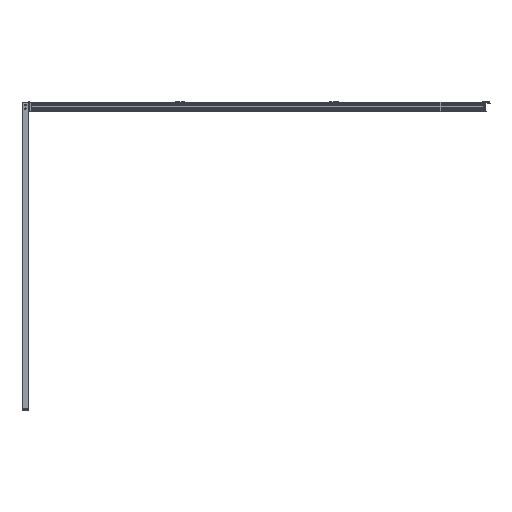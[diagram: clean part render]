
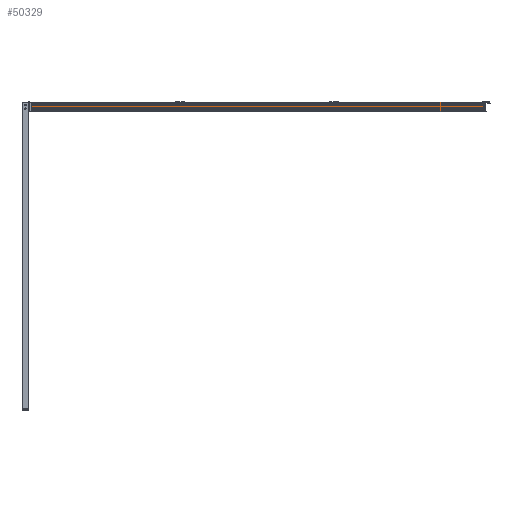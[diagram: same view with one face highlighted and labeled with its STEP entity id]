
A CAD part, left-side view. The second image highlights one B-rep face of the part: STEP entity #50329.
In plain terms, the highlighted planar face has unit normal (-1, 0, 0).
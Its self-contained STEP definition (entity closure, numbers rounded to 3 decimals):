
#7351 = CARTESIAN_POINT ( 'NONE',  ( 4410., -3708.5, 371.646 ) ) ;
#10589 = LINE ( 'NONE', #22890, #117721 ) ;
#11835 = VERTEX_POINT ( 'NONE', #166803 ) ;
#20929 = VECTOR ( 'NONE', #160296, 1000. ) ;
#20957 = VERTEX_POINT ( 'NONE', #162291 ) ;
#22890 = CARTESIAN_POINT ( 'NONE',  ( 4410., -7804.5, 451.784 ) ) ;
#23283 = ORIENTED_EDGE ( 'NONE', *, *, #105752, .T. ) ;
#23999 = LINE ( 'NONE', #7351, #20929 ) ;
#30586 = CARTESIAN_POINT ( 'NONE',  ( 4410., -7804.5, 455.646 ) ) ;
#36032 = EDGE_CURVE ( 'NONE', #39450, #76128, #10589, .T. ) ;
#39450 = VERTEX_POINT ( 'NONE', #30586 ) ;
#40253 = DIRECTION ( 'NONE',  ( 0., 0., -1. ) ) ;
#42944 = EDGE_LOOP ( 'NONE', ( #186779, #172721, #62646, #23283 ) ) ;
#43529 = CARTESIAN_POINT ( 'NONE',  ( 4410., -3708.5, 451.784 ) ) ;
#46224 = DIRECTION ( 'NONE',  ( 0., -1., 0. ) ) ;
#50329 = ADVANCED_FACE ( 'NONE', ( #132653 ), #183604, .T. ) ;
#61618 = DIRECTION ( 'NONE',  ( 0., 0., -1. ) ) ;
#62646 = ORIENTED_EDGE ( 'NONE', *, *, #99440, .T. ) ;
#76128 = VERTEX_POINT ( 'NONE', #103788 ) ;
#99440 = EDGE_CURVE ( 'NONE', #20957, #11835, #195345, .T. ) ;
#102389 = VECTOR ( 'NONE', #145139, 1000. ) ;
#103788 = CARTESIAN_POINT ( 'NONE',  ( 4410., -7804.5, 371.646 ) ) ;
#105752 = EDGE_CURVE ( 'NONE', #11835, #76128, #23999, .T. ) ;
#114679 = VECTOR ( 'NONE', #40253, 1000. ) ;
#117721 = VECTOR ( 'NONE', #61618, 1000. ) ;
#130432 = DIRECTION ( 'NONE',  ( -1., 0., 0. ) ) ;
#132653 = FACE_OUTER_BOUND ( 'NONE', #42944, .T. ) ;
#145139 = DIRECTION ( 'NONE',  ( 0., -1., 0. ) ) ;
#148454 = LINE ( 'NONE', #182789, #102389 ) ;
#159230 = EDGE_CURVE ( 'NONE', #20957, #39450, #148454, .T. ) ;
#160296 = DIRECTION ( 'NONE',  ( 0., -1., 0. ) ) ;
#162291 = CARTESIAN_POINT ( 'NONE',  ( 4410., -3708.5, 455.646 ) ) ;
#163687 = CARTESIAN_POINT ( 'NONE',  ( 4410., -3708.5, 451.784 ) ) ;
#166803 = CARTESIAN_POINT ( 'NONE',  ( 4410., -3708.5, 371.646 ) ) ;
#172721 = ORIENTED_EDGE ( 'NONE', *, *, #159230, .F. ) ;
#182789 = CARTESIAN_POINT ( 'NONE',  ( 4410., -3708.5, 455.646 ) ) ;
#183604 = PLANE ( 'NONE',  #195664 ) ;
#186779 = ORIENTED_EDGE ( 'NONE', *, *, #36032, .F. ) ;
#195345 = LINE ( 'NONE', #43529, #114679 ) ;
#195664 = AXIS2_PLACEMENT_3D ( 'NONE', #163687, #130432, #46224 ) ;
